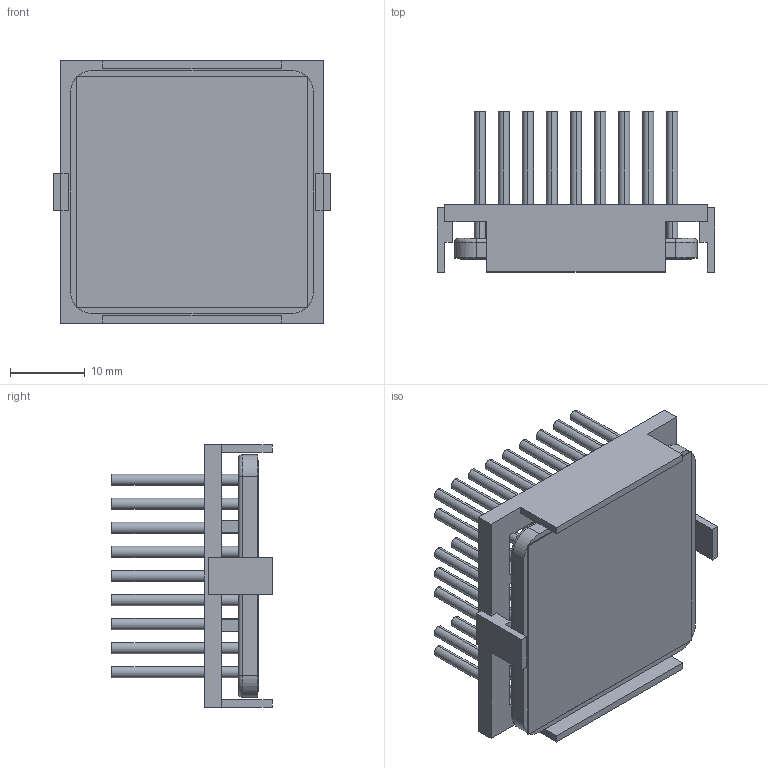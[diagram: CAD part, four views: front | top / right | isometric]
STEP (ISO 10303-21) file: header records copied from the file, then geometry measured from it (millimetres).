
FILE_DESCRIPTION (( 'STEP AP214' ), '1' );
FILE_NAME ('INM33002-20P-2.6BU.STEP', '2023-03-02T20:08:12', ( '' ), ( '' ), 'SwSTEP 2.0', 'SolidWorks 2020', '' );
FILE_SCHEMA (( 'AUTOMOTIVE_DESIGN' ));
Length unit declared in the file: inch
Products named in the file (1): INM33002-20P-2.6BU
Bounding box: 37.2 x 21.5 x 35.2 mm (x, y, z)
Volume: 6650.1 mm3; surface area: 12813.3 mm2
Topology: 3 solids, 3 shells, 301 faces, 658 edges, 436 vertices
Faces by surface type: cylinder 154, plane 143, torus 4
Entity records: 12339 total; most frequent: DIRECTION 1574, CARTESIAN_POINT 1396, ORIENTED_EDGE 1316, EDGE_CURVE 658, AXIS2_PLACEMENT_3D 614, VERTEX_POINT 436, EDGE_LOOP 376, LINE 346
